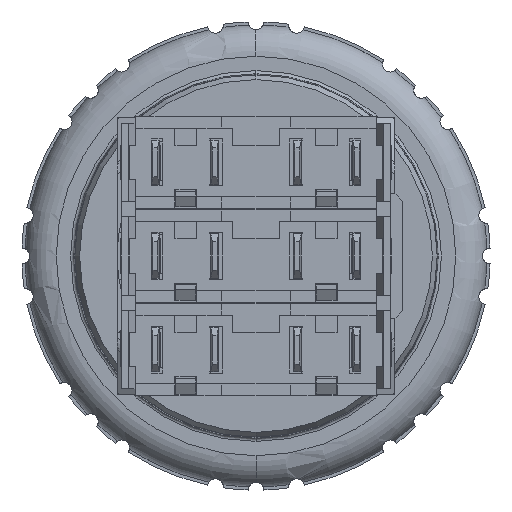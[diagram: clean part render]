
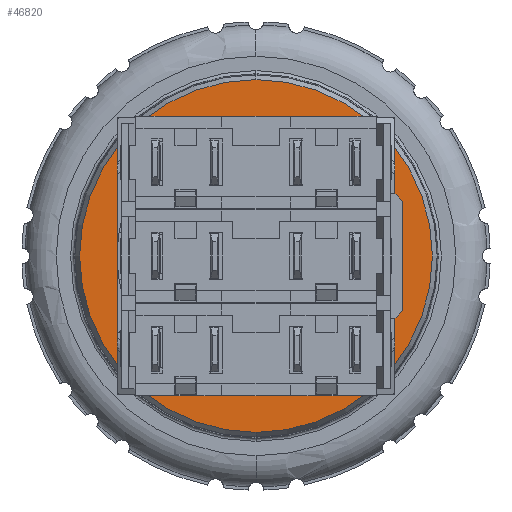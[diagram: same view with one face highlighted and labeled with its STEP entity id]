
A CAD part, front view. The second image highlights one B-rep face of the part: STEP entity #46820.
In plain terms, the highlighted planar face has unit normal (0, -1, 0).
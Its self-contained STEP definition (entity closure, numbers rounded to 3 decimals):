
#1542=CARTESIAN_POINT('',(0.,25.1,0.));
#1543=DIRECTION('',(0.,-1.,0.));
#1544=DIRECTION('',(0.,0.,1.));
#1545=AXIS2_PLACEMENT_3D('',#1542,#1543,#1544);
#1555=CARTESIAN_POINT('',(0.,25.1,0.));
#1556=DIRECTION('',(0.,1.,0.));
#1557=DIRECTION('',(0.,0.,1.));
#1558=AXIS2_PLACEMENT_3D('',#1555,#1556,#1557);
#1565=CARTESIAN_POINT('',(0.,25.1,0.));
#1566=DIRECTION('',(0.,1.,0.));
#1567=DIRECTION('',(0.,0.,-1.));
#1568=AXIS2_PLACEMENT_3D('',#1565,#1566,#1567);
#33199=CARTESIAN_POINT('',(0.,25.1,0.));
#33200=DIRECTION('',(0.,1.,0.));
#33201=DIRECTION('',(0.,0.,1.));
#33202=AXIS2_PLACEMENT_3D('',#33199,#33200,#33201);
#43723=CARTESIAN_POINT('',(0.,25.1,11.3));
#43725=VERTEX_POINT('',#43723);
#43727=CARTESIAN_POINT('',(0.,25.1,-11.3));
#43729=VERTEX_POINT('',#43727);
#44187=CARTESIAN_POINT('',(0.,25.1,-8.15));
#44188=CARTESIAN_POINT('',(0.,25.1,8.15));
#44189=VERTEX_POINT('',#44187);
#44190=VERTEX_POINT('',#44188);
#46805=CARTESIAN_POINT('',(0.,25.1,0.));
#46806=DIRECTION('',(0.,-1.,0.));
#46807=DIRECTION('',(0.,0.,-1.));
#46808=AXIS2_PLACEMENT_3D('',#46805,#46806,#46807);
#46809=PLANE('',#46808);
#46810=ORIENTED_EDGE('',*,*,#46800,.T.);
#46811=ORIENTED_EDGE('',*,*,#46784,.F.);
#46812=EDGE_LOOP('',(#46810,#46811));
#46813=FACE_OUTER_BOUND('',#46812,.F.);
#46815=ORIENTED_EDGE('',*,*,#46814,.F.);
#46817=ORIENTED_EDGE('',*,*,#46816,.F.);
#46818=EDGE_LOOP('',(#46815,#46817));
#46819=FACE_BOUND('',#46818,.F.);
#46820=ADVANCED_FACE('',(#46813,#46819),#46809,.T.);
#1546=CIRCLE('',#1545,11.3);
#1559=CIRCLE('',#1558,11.3);
#1569=CIRCLE('',#1568,8.15);
#33203=CIRCLE('',#33202,8.15);
#46784=EDGE_CURVE('',#43725,#43729,#1546,.T.);
#46800=EDGE_CURVE('',#43725,#43729,#1559,.T.);
#46814=EDGE_CURVE('',#44189,#44190,#1569,.T.);
#46816=EDGE_CURVE('',#44190,#44189,#33203,.T.);
